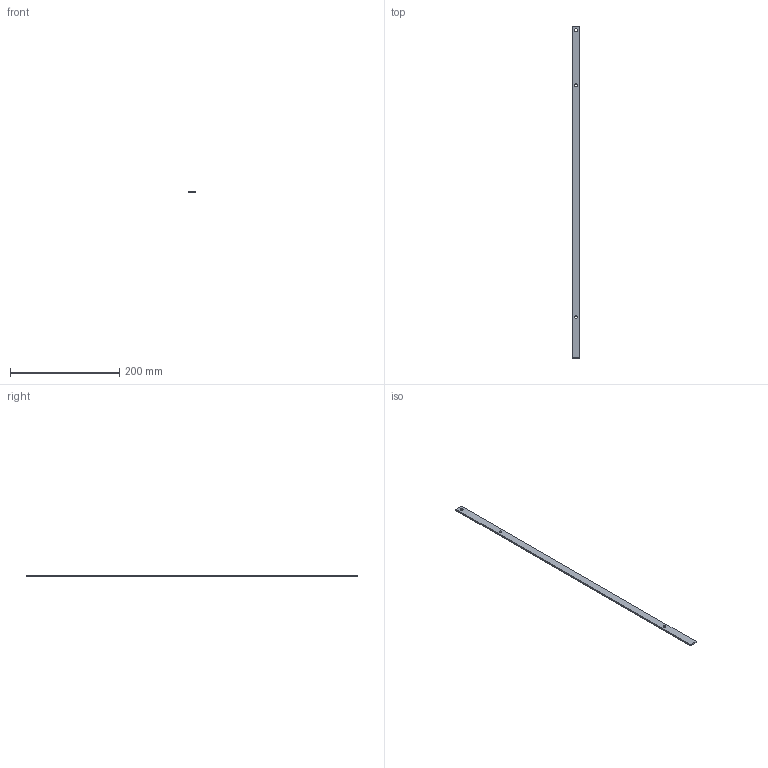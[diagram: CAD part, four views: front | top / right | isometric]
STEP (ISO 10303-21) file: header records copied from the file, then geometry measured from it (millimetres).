
FILE_DESCRIPTION (( 'STEP AP214' ), '1' );
FILE_NAME ('P28-601.STEP', '2012-01-25T10:50:09', ( 'Techniczny' ), ( 'RST Roztocze' ), 'SwSTEP 2.0', 'SolidWorks 2010', '' );
FILE_SCHEMA (( 'AUTOMOTIVE_DESIGN' ));
Length unit declared in the file: millimetre
Products named in the file (1): P28-601
Bounding box: 14 x 608.5 x 3 mm (x, y, z)
Volume: 25367.9 mm3; surface area: 20793 mm2
Topology: 1 solids, 1 shells, 12 faces, 30 edges, 20 vertices
Faces by surface type: cylinder 6, plane 6
Entity records: 412 total; most frequent: DIRECTION 68, CARTESIAN_POINT 63, ORIENTED_EDGE 60, EDGE_CURVE 30, AXIS2_PLACEMENT_3D 25, VERTEX_POINT 20, VECTOR 18, LINE 18
